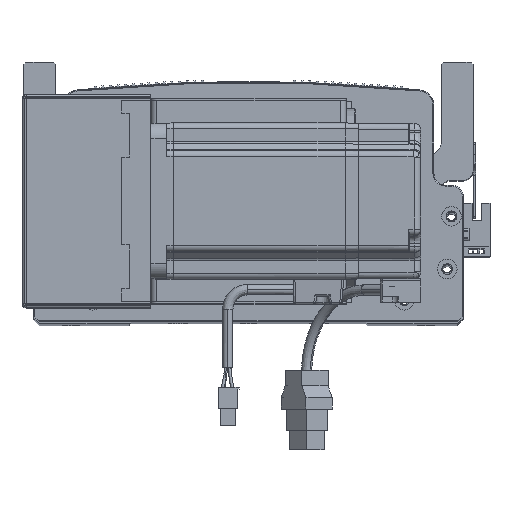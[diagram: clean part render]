
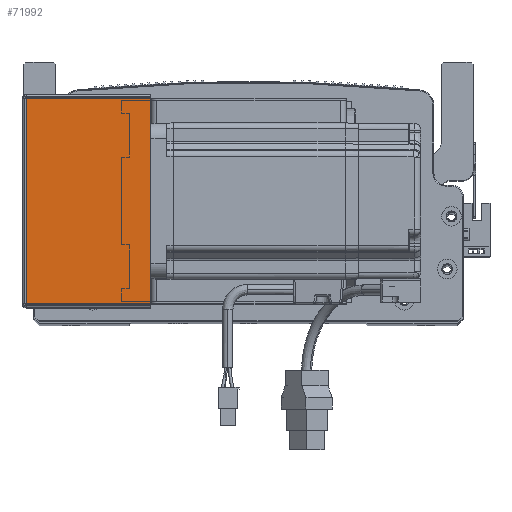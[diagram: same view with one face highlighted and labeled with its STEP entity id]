
A CAD part, top view. The second image highlights one B-rep face of the part: STEP entity #71992.
In plain terms, the highlighted planar face has unit normal (0, 0, 1) as drawn and (0, 0, -1) by its records, which use the part's own axes.
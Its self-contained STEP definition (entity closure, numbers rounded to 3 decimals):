
#1120 = EDGE_CURVE ( 'NONE', #23990, #12862, #80258, .T. ) ;
#1187 = AXIS2_PLACEMENT_3D ( 'NONE', #40045, #34773, #78780 ) ;
#1520 = CARTESIAN_POINT ( 'NONE',  ( 0.737, 0., -205.5 ) ) ;
#7392 = CARTESIAN_POINT ( 'NONE',  ( 0., 0.707, -205.5 ) ) ;
#10398 = CARTESIAN_POINT ( 'NONE',  ( 0., 105.293, -205.5 ) ) ;
#12862 = VERTEX_POINT ( 'NONE', #56052 ) ;
#14023 = VERTEX_POINT ( 'NONE', #21785 ) ;
#19983 = DIRECTION ( 'NONE',  ( 1., 0., 0. ) ) ;
#20272 = LINE ( 'NONE', #1520, #43068 ) ;
#21785 = CARTESIAN_POINT ( 'NONE',  ( 64.5, 105.293, -205.5 ) ) ;
#22968 = CARTESIAN_POINT ( 'NONE',  ( 0.737, 105.293, -205.5 ) ) ;
#23990 = VERTEX_POINT ( 'NONE', #74554 ) ;
#24479 = DIRECTION ( 'NONE',  ( 0., -1., 0. ) ) ;
#25375 = VECTOR ( 'NONE', #29915, 1000. ) ;
#29915 = DIRECTION ( 'NONE',  ( 1., 0., 0. ) ) ;
#32399 = EDGE_CURVE ( 'NONE', #40516, #23990, #20272, .T. ) ;
#34773 = DIRECTION ( 'NONE',  ( 0., 0., 1. ) ) ;
#39976 = EDGE_LOOP ( 'NONE', ( #49559, #79766, #42884, #42084 ) ) ;
#40045 = CARTESIAN_POINT ( 'NONE',  ( 0., 0., -205.5 ) ) ;
#40516 = VERTEX_POINT ( 'NONE', #22968 ) ;
#40794 = VECTOR ( 'NONE', #24479, 1000. ) ;
#42084 = ORIENTED_EDGE ( 'NONE', *, *, #1120, .F. ) ;
#42884 = ORIENTED_EDGE ( 'NONE', *, *, #47859, .T. ) ;
#43068 = VECTOR ( 'NONE', #65198, 1000. ) ;
#47859 = EDGE_CURVE ( 'NONE', #14023, #12862, #53554, .T. ) ;
#49559 = ORIENTED_EDGE ( 'NONE', *, *, #32399, .F. ) ;
#53554 = LINE ( 'NONE', #62232, #40794 ) ;
#53751 = PLANE ( 'NONE',  #1187 ) ;
#54202 = FACE_OUTER_BOUND ( 'NONE', #39976, .T. ) ;
#56052 = CARTESIAN_POINT ( 'NONE',  ( 64.5, 0.707, -205.5 ) ) ;
#62232 = CARTESIAN_POINT ( 'NONE',  ( 64.5, 0., -205.5 ) ) ;
#65133 = EDGE_CURVE ( 'NONE', #40516, #14023, #68781, .T. ) ;
#65198 = DIRECTION ( 'NONE',  ( 0., -1., 0. ) ) ;
#68781 = LINE ( 'NONE', #10398, #25375 ) ;
#71443 = VECTOR ( 'NONE', #19983, 1000. ) ;
#71992 = ADVANCED_FACE ( 'NONE', ( #54202 ), #53751, .F. ) ;
#74554 = CARTESIAN_POINT ( 'NONE',  ( 0.737, 0.707, -205.5 ) ) ;
#78780 = DIRECTION ( 'NONE',  ( 1., 0., 0. ) ) ;
#79766 = ORIENTED_EDGE ( 'NONE', *, *, #65133, .T. ) ;
#80258 = LINE ( 'NONE', #7392, #71443 ) ;
